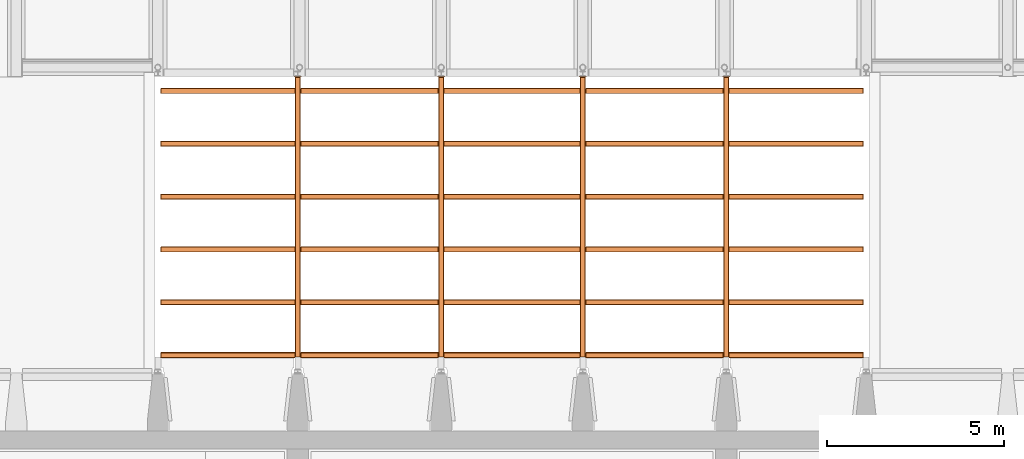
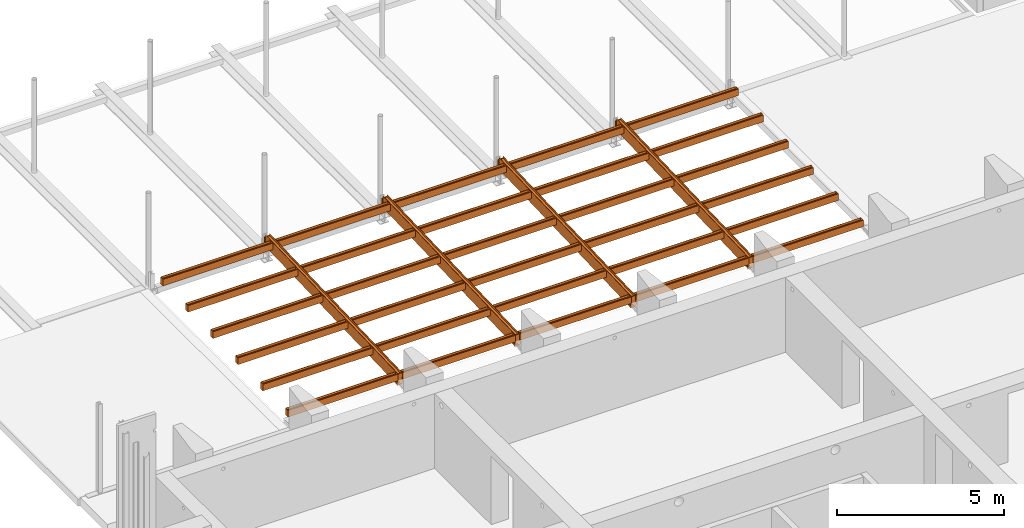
# One storey, part 31 of 31: 34 proxies.
"""IFC2X3 building model written with IfcOpenShell, lengths in millimetres."""

import ifcopenshell
import ifcopenshell.guid

model = None  # the IFC model being written
_history = None  # IfcOwnerHistory: only IFC2X3 demands one
_inside = {}  # id of a spatial element -> (the spatial element, [elements in it])
_under = {}  # id of a project, library or spatial element -> (it, [spatial elements below it])
_declared = {}  # id of a project -> (the project, [libraries it declares])
_typed = {}  # id of a type object -> (the type object, [elements of that type])
_made_of = {}  # id of a material, layer set ... -> (it, [elements and type objects made of it])


def new_model(schema):
    """Start an empty IFC model of exactly this schema.

    Asked for "IFC4X3", IfcOpenShell would pick the latest addendum, in which some entities
    have other attributes; the version numbers below select the first issue.
    IFC2X3 requires an IfcOwnerHistory on every rooted entity: one is made here for all.
    """
    global model, _history
    if schema == "IFC4X3":
        model = ifcopenshell.file(schema_version=(4, 3, 0, 0))
    else:
        model = ifcopenshell.file(schema=schema)
    _inside.clear()
    _under.clear()
    _declared.clear()
    _typed.clear()
    _made_of.clear()
    _history = None
    if model.schema == "IFC2X3":
        org = make("IfcOrganization", Name="unknown")
        user = make(
            "IfcPersonAndOrganization",
            ThePerson=make("IfcPerson", FamilyName="unknown"),
            TheOrganization=org,
        )
        app = make(
            "IfcApplication",
            ApplicationDeveloper=org,
            Version="unknown",
            ApplicationFullName="unknown",
            ApplicationIdentifier="unknown",
        )
        _history = make(
            "IfcOwnerHistory",
            OwningUser=user,
            OwningApplication=app,
            ChangeAction="ADDED",
            CreationDate=0,
        )
    return model


def make(cls, **values):
    """One entity of the class cls with the attributes given. An attribute that is None is left unset."""
    return model.create_entity(
        cls, **{name: value for name, value in values.items() if value is not None}
    )


def entity(cls, *values):
    """Any entity or typed value of the class cls, its attributes in the order of the schema. None: left unset."""
    e = model.create_entity(cls)
    for i, value in enumerate(values):
        if value is not None:
            e[i] = value
    return e


def rooted(cls, **values):
    """An entity with a GlobalId (a new one), such as an element, a storey or a relation."""
    return make(cls, GlobalId=ifcopenshell.guid.new(), OwnerHistory=_history, **values)


def si_unit(unit_type, name, prefix=None):
    """IfcSIUnit, for example si_unit("LENGTHUNIT", "METRE", prefix="MILLI")."""
    return make("IfcSIUnit", UnitType=unit_type, Prefix=prefix, Name=name)


def converted_unit(unit_type, name, factor, base, dimensions=None, offset=None):
    """IfcConversionBasedUnit, such as the inch: factor (a typed value) times the base unit."""
    return make(
        "IfcConversionBasedUnit"
        if offset is None
        else "IfcConversionBasedUnitWithOffset",
        ConversionOffset=offset,
        Dimensions=None
        if dimensions is None
        else entity("IfcDimensionalExponents", *dimensions),
        UnitType=unit_type,
        Name=name,
        ConversionFactor=make(
            "IfcMeasureWithUnit", ValueComponent=factor, UnitComponent=base
        ),
    )


def derived_unit(unit_type, elements):
    """IfcDerivedUnit: a product of units, each with its exponent."""
    return make(
        "IfcDerivedUnit",
        Elements=[
            make("IfcDerivedUnitElement", Unit=unit, Exponent=power)
            for unit, power in elements
        ],
        UnitType=unit_type,
    )


def assignment(units):
    """IfcUnitAssignment: the units of a project."""
    return None if units is None else make("IfcUnitAssignment", Units=units)


def point(xyz):
    """IfcCartesianPoint."""
    return None if xyz is None else make("IfcCartesianPoint", Coordinates=xyz)


def direction(xyz):
    """IfcDirection."""
    return None if xyz is None else make("IfcDirection", DirectionRatios=xyz)


def frame(location, z_axis=None, x_axis=None):
    """IfcAxis2Placement3D, a coordinate frame: its origin and axes. An axis left out is left unset."""
    return make(
        "IfcAxis2Placement3D",
        Location=point(location),
        Axis=direction(z_axis),
        RefDirection=direction(x_axis),
    )


def frame_2d(location, x_axis=None):
    """IfcAxis2Placement2D, a coordinate frame in the plane: its origin and x axis."""
    return make(
        "IfcAxis2Placement2D", Location=point(location), RefDirection=direction(x_axis)
    )


def origin():
    """The frame at (0, 0, 0) with its axes left unset."""
    return frame((0.0, 0.0, 0.0))


def origin_2d_with_axis():
    """The frame at (0, 0) in the plane with the x axis (1, 0) written out."""
    return frame_2d((0.0, 0.0), x_axis=(1.0, 0.0))


def place(relative_to, where):
    """IfcLocalPlacement: puts the frame where relative to a parent placement (None: the world)."""
    return make(
        "IfcLocalPlacement", PlacementRelTo=relative_to, RelativePlacement=where
    )


def context(
    kind, dimensions, precision=None, world=None, true_north=None, identifier=None
):
    """IfcGeometricRepresentationContext, for example the 3D "Model" context."""
    return make(
        "IfcGeometricRepresentationContext",
        ContextIdentifier=identifier,
        ContextType=kind,
        CoordinateSpaceDimension=dimensions,
        Precision=precision,
        WorldCoordinateSystem=world,
        TrueNorth=true_north,
    )


def subcontext(parent, identifier, kind, view, scale=None):
    """IfcGeometricRepresentationSubContext, for example "Body" below "Model"."""
    return make(
        "IfcGeometricRepresentationSubContext",
        ContextIdentifier=identifier,
        ContextType=kind,
        ParentContext=parent,
        TargetScale=scale,
        TargetView=view,
    )


def project(units=None, contexts=None):
    """IfcProject with its units and contexts."""
    return rooted(
        "IfcProject",
        Name="project",
        RepresentationContexts=contexts,
        UnitsInContext=assignment(units),
    )


def spatial(cls, under=None, at=None, **own):
    """A site, building, storey or space (cls), placed at a placement, below another one or the project."""
    s = rooted(cls, ObjectPlacement=at, **own)
    if under is not None:
        _under.setdefault(under.id(), (under, []))[1].append(s)
    return s


def profile(cls, at=None, kind="AREA", **sizes):
    """A parametric profile (cls). Its sizes go by their IFC names, for example OverallWidth=200.0."""
    return make(cls, ProfileType=kind, Position=at, **sizes)


def rectangle(**sizes):
    """IfcRectangleProfileDef."""
    return profile("IfcRectangleProfileDef", **sizes)


def extrude(swept, where, along, depth):
    """IfcExtrudedAreaSolid: the profile swept, set in the frame where, extruded along a direction by depth."""
    return make(
        "IfcExtrudedAreaSolid",
        SweptArea=swept,
        Position=where,
        ExtrudedDirection=direction(along),
        Depth=depth,
    )


def shape(context_of_items, identifier, shape_type, items):
    """IfcShapeRepresentation: the items that make up one representation, for example the "Body"."""
    return make(
        "IfcShapeRepresentation",
        ContextOfItems=context_of_items,
        RepresentationIdentifier=identifier,
        RepresentationType=shape_type,
        Items=items,
    )


def source(mapping_origin, context_of_items, identifier, shape_type, items):
    """IfcRepresentationMap: a shape defined once, which mapped items show again and again."""
    return make(
        "IfcRepresentationMap",
        MappingOrigin=mapping_origin,
        MappedRepresentation=shape(context_of_items, identifier, shape_type, items),
    )


def transform(
    local_origin,
    x_axis=None,
    y_axis=None,
    z_axis=None,
    scale=None,
    scale2=None,
    scale3=None,
    uniform=True,
):
    """IfcCartesianTransformationOperator3D, or its non-uniform kind. x_axis, y_axis, z_axis: its Axis1, 2, 3."""
    if uniform:
        return make(
            "IfcCartesianTransformationOperator3D",
            Axis1=direction(x_axis),
            Axis2=direction(y_axis),
            LocalOrigin=point(local_origin),
            Scale=scale,
            Axis3=direction(z_axis),
        )
    return make(
        "IfcCartesianTransformationOperator3DnonUniform",
        Axis1=direction(x_axis),
        Axis2=direction(y_axis),
        LocalOrigin=point(local_origin),
        Scale=scale,
        Axis3=direction(z_axis),
        Scale2=scale2,
        Scale3=scale3,
    )


def mapped(mapping_source, mapping_target):
    """IfcMappedItem: shows the shape of a source again, moved by a transform."""
    return make(
        "IfcMappedItem", MappingSource=mapping_source, MappingTarget=mapping_target
    )


def material(Name=None, Category=None):
    """IfcMaterial."""
    return make("IfcMaterial", Name=Name, Category=Category)


def material_list(materials):
    """IfcMaterialList."""
    return make("IfcMaterialList", Materials=materials)


def made_of(thing, what):
    """Note that an element or type object is made of a material, layer set ...; save() writes the relation."""
    if what is not None:
        _made_of.setdefault(what.id(), (what, []))[1].append(thing)
    return thing


def type_object(cls, material=None, **own):
    """A type object (cls), such as IfcWallType, which elements share."""
    return made_of(rooted(cls, **own), material)


def type_shapes(of_type, sources):
    """Give a type object the sources (RepresentationMaps) that its elements show as mapped items."""
    of_type.RepresentationMaps = sources


def element(
    cls,
    number,
    at=None,
    inside=None,
    cuts=None,
    type_object=None,
    material=None,
    context=None,
    identifier="Body",
    shape_type=None,
    held_by="IfcProductDefinitionShape",
    body=None,
    shapes=None,
    **own,
):
    """One element of the class cls, such as IfcWall. Its Tag is "e" and its number.

    at: its placement. inside: the storey or other place that contains it. cuts: it is an
    opening in that element (IfcRelVoidsElement). A single representation is given by context,
    identifier, shape_type and body (its items); several are given by shapes. held_by: the class
    of the entity that holds the representations. save() writes the other relations.
    """
    e = rooted(cls, Tag="e%d" % number, ObjectPlacement=at, **own)
    if body is not None:
        shapes = [shape(context, identifier, shape_type, body)]
    if shapes is not None:
        e.Representation = make(held_by, Representations=shapes)
    if inside is not None:
        _inside.setdefault(inside.id(), (inside, []))[1].append(e)
    if cuts is not None:
        rooted(
            "IfcRelVoidsElement", RelatingBuildingElement=cuts, RelatedOpeningElement=e
        )
    if type_object is not None:
        _typed.setdefault(type_object.id(), (type_object, []))[1].append(e)
    return made_of(e, material)


def aggregate(whole, parts):
    """IfcRelAggregates: a whole, such as a stair, and the parts it consists of."""
    return rooted("IfcRelAggregates", RelatingObject=whole, RelatedObjects=parts)


def save(model, path):
    """Write the relations noted so far, then the file.

    IfcRelAggregates (storeys below a building ...), IfcRelContainedInSpatialStructure (elements
    in a storey), IfcRelDefinesByType, IfcRelAssociatesMaterial and IfcRelDeclares: one each for
    every whole, place, type object, material and project.
    """
    for whole, parts in _under.values():
        aggregate(whole, parts)
    for where, things in _inside.values():
        rooted(
            "IfcRelContainedInSpatialStructure",
            RelatedElements=things,
            RelatingStructure=where,
        )
    for kind, things in _typed.values():
        rooted("IfcRelDefinesByType", RelatedObjects=things, RelatingType=kind)
    for what, things in _made_of.values():
        rooted("IfcRelAssociatesMaterial", RelatedObjects=things, RelatingMaterial=what)
    for by, libraries in _declared.values():
        rooted("IfcRelDeclares", RelatingContext=by, RelatedDefinitions=libraries)
    model.write(path)


model = new_model("IFC2X3")

# Units and contexts
model_context = context("Model", 3, precision=0.01, world=origin(), true_north=direction((6.12303176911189e-17, 1.0)))
body_context = subcontext(model_context, "Body", "Model", "MODEL_VIEW")
ifc_project = project(units=[si_unit("LENGTHUNIT", "METRE", prefix="MILLI"), si_unit("AREAUNIT", "SQUARE_METRE"), si_unit("VOLUMEUNIT", "CUBIC_METRE"), converted_unit("PLANEANGLEUNIT", "DEGREE", entity("IfcRatioMeasure", 0.0174532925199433), si_unit("PLANEANGLEUNIT", "RADIAN"), dimensions=[0, 0, 0, 0, 0, 0, 0]), si_unit("MASSUNIT", "GRAM", prefix="KILO"), derived_unit("MASSDENSITYUNIT", [(si_unit("MASSUNIT", "GRAM", prefix="KILO"), 1), (si_unit("LENGTHUNIT", "METRE"), -3)]), si_unit("TIMEUNIT", "SECOND"), si_unit("FREQUENCYUNIT", "HERTZ"), si_unit("THERMODYNAMICTEMPERATUREUNIT", "DEGREE_CELSIUS"), derived_unit("THERMALTRANSMITTANCEUNIT", [(si_unit("MASSUNIT", "GRAM", prefix="KILO"), 1), (si_unit("THERMODYNAMICTEMPERATUREUNIT", "KELVIN"), -1), (si_unit("TIMEUNIT", "SECOND"), -3)]), derived_unit("VOLUMETRICFLOWRATEUNIT", [(si_unit("LENGTHUNIT", "METRE"), 3), (si_unit("TIMEUNIT", "SECOND"), -1)]), si_unit("ELECTRICCURRENTUNIT", "AMPERE"), si_unit("ELECTRICVOLTAGEUNIT", "VOLT"), si_unit("POWERUNIT", "WATT"), si_unit("FORCEUNIT", "NEWTON", prefix="KILO"), si_unit("ILLUMINANCEUNIT", "LUX"), si_unit("LUMINOUSFLUXUNIT", "LUMEN"), si_unit("LUMINOUSINTENSITYUNIT", "CANDELA"), derived_unit("USERDEFINED", [(si_unit("MASSUNIT", "GRAM", prefix="KILO"), -1), (si_unit("LENGTHUNIT", "METRE"), -2), (si_unit("TIMEUNIT", "SECOND"), 3), (si_unit("LUMINOUSFLUXUNIT", "LUMEN"), 1)]), derived_unit("LINEARVELOCITYUNIT", [(si_unit("LENGTHUNIT", "METRE"), 1), (si_unit("TIMEUNIT", "SECOND"), -1)]), si_unit("PRESSUREUNIT", "PASCAL"), derived_unit("USERDEFINED", [(si_unit("LENGTHUNIT", "METRE"), -2), (si_unit("MASSUNIT", "GRAM", prefix="KILO"), 1), (si_unit("TIMEUNIT", "SECOND"), -2)])], contexts=[model_context])

# Site, building, storey
site_placement = place(None, origin())
site = spatial("IfcSite", under=ifc_project, at=site_placement, Name="Default", CompositionType="ELEMENT")
building_placement = place(site_placement, origin())
building = spatial("IfcBuilding", under=site, at=building_placement, Name="niet gebruiken", CompositionType="ELEMENT")
storey_placement = place(building_placement, frame((0.0, 0.0, 12000.0)))
storey = spatial("IfcBuildingStorey", under=building, at=storey_placement, Name="03 derde verdieping", CompositionType="ELEMENT", Elevation=12000.0)

# Proxies
ifc_material_1 = material(Name="NLRS_h2_staal")
ifc_material_2 = material(Name="Default")
ifc_material_list_1 = material_list([ifc_material_1, ifc_material_2])
ifc_material_list_2 = material_list([ifc_material_1, ifc_material_2])
building_element_proxy_type_1 = type_object("IfcBuildingElementProxyType", Name="type1", PredefinedType="NOTDEFINED", material=ifc_material_list_2)
shared_shape_1 = source(origin(), body_context, "Body", "SweptSolid", [
    extrude(rectangle(XDim=210.0, YDim=20.0000000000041, at=origin_2d_with_axis()), frame((0.0, 8239.0017386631, 43.019405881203), z_axis=(0.0, 0.0, 1.0), x_axis=(-1.0, 0.0, 0.0)), (0.0, 0.0, 1.0), 369.999999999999),
    extrude(rectangle(XDim=19.9999999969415, YDim=200.0, at=frame_2d((0.0, -3.37507799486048e-14), x_axis=(0.0, 1.0))), frame((0.0, 329.271319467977, -206.559366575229), z_axis=(0.0, -0.0348994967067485, 0.999390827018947), x_axis=(-1.0, 0.0, 0.0)), (0.0, 0.0, 1.0), 420.000000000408),
    extrude(rectangle(XDim=19.9999999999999, YDim=7892.99999999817, at=frame_2d((2.48689957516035e-14, 9.09494701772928e-13), x_axis=(1.0, 0.0))), frame((-67.0, 4280.56916683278, 11.4717582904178), z_axis=(1.0, 0.0, 0.0), x_axis=(0.0, 0.0348994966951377, -0.999390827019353)), (0.0, 0.0, 1.0), 134.0),
    extrude(rectangle(XDim=20.0, YDim=7893.0, at=frame_2d((1.68753899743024e-14, 9.09494701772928e-13), x_axis=(1.0, 0.0))), frame((-67.0, 4271.84429265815, 261.31946504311), z_axis=(1.0, 0.0, 0.0), x_axis=(0.0, 0.0348994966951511, -0.999390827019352)), (0.0, 0.0, 1.0), 134.0),
    extrude(rectangle(XDim=430.0, YDim=8.0, at=frame_2d((-4.21884749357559e-15, 0.0), x_axis=(0.0, 1.0))), frame((71.0, 332.110830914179, -1.33525207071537), z_axis=(0.0, 0.999390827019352, 0.0348994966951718), x_axis=(-1.0, 0.0, 0.0)), (0.0, 0.0, 1.0), 7892.99999999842),
    extrude(rectangle(XDim=430.0, YDim=8.0, at=frame_2d((4.21884749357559e-15, 1.4210854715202e-14), x_axis=(0.0, 1.0))), frame((-71.0, 332.110830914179, -1.33525207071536), z_axis=(0.0, 0.999390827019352, 0.0348994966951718), x_axis=(-1.0, 0.0, 0.0)), (0.0, 0.0, 1.0), 7892.99999999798),
])
type_shapes(building_element_proxy_type_1, [shared_shape_1])
proxy_1_placement = place(storey_placement, frame((147800.0, 35000.0, 1500.0)))
element("IfcBuildingElementProxy", 1, at=proxy_1_placement, inside=storey, type_object=building_element_proxy_type_1, material=ifc_material_list_1, Name="NLRS_28.11_SF_stalen ligger samengesteld 3e hoofd_gen:type1", ObjectType="type1", context=body_context, shape_type="MappedRepresentation", body=[
    mapped(shared_shape_1, transform((0.0, 0.0, 0.0), scale=1.0)),
])
ifc_material_list_3 = material_list([ifc_material_1, ifc_material_2])
proxy_2_placement = place(storey_placement, frame((143750.0, 35000.0, 1500.0)))
element("IfcBuildingElementProxy", 2, at=proxy_2_placement, inside=storey, type_object=building_element_proxy_type_1, material=ifc_material_list_3, Name="NLRS_28.11_SF_stalen ligger samengesteld 3e hoofd_gen:type1", ObjectType="type1", context=body_context, shape_type="MappedRepresentation", body=[
    mapped(shared_shape_1, transform((0.0, 0.0, 0.0), scale=1.0)),
])
ifc_material_list_4 = material_list([ifc_material_1, ifc_material_2])
proxy_3_placement = place(storey_placement, frame((139750.0, 35000.0, 1500.0)))
element("IfcBuildingElementProxy", 3, at=proxy_3_placement, inside=storey, type_object=building_element_proxy_type_1, material=ifc_material_list_4, Name="NLRS_28.11_SF_stalen ligger samengesteld 3e hoofd_gen:type1", ObjectType="type1", context=body_context, shape_type="MappedRepresentation", body=[
    mapped(shared_shape_1, transform((0.0, 0.0, 0.0), scale=1.0)),
])
ifc_material_list_5 = material_list([ifc_material_1, ifc_material_2])
proxy_4_placement = place(storey_placement, frame((135700.0, 35000.0, 1500.0)))
element("IfcBuildingElementProxy", 4, at=proxy_4_placement, inside=storey, type_object=building_element_proxy_type_1, material=ifc_material_list_5, Name="NLRS_28.11_SF_stalen ligger samengesteld 3e hoofd_gen:type1", ObjectType="type1", context=body_context, shape_type="MappedRepresentation", body=[
    mapped(shared_shape_1, transform((0.0, 0.0, 0.0), scale=1.0)),
])
building_element_proxy_type_2 = type_object("IfcBuildingElementProxyType", Name="type1", PredefinedType="NOTDEFINED", material=ifc_material_1)
shared_shape_2 = source(origin(), body_context, "Body", "SweptSolid", [
    extrude(rectangle(XDim=142.0, YDim=9.99999999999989, at=frame_2d((0.0, 0.0), x_axis=(0.0, 1.0))), frame((4.6575118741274, 3870.0, -247.988523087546), z_axis=(-0.0348994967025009, 0.0, 0.999390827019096), x_axis=(0.0, 1.0, 0.0)), (0.0, 0.0, 1.0), 247.999999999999),
    extrude(rectangle(XDim=150.0, YDim=9.99999999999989, at=frame_2d((0.0, 7.105427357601e-15), x_axis=(0.0, 1.0))), frame((8.6550751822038, 80.0, -247.848925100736), z_axis=(-0.0348994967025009, 0.0, 0.999390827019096), x_axis=(0.0, 1.0, 0.0)), (0.0, 0.0, 1.0), 247.999999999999),
    extrude(rectangle(XDim=7.99999999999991, YDim=134.0, at=frame_2d((1.4210854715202e-14, 3.48610029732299e-14), x_axis=(0.0, 1.0))), frame((5.72351745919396, 85.0, -163.900095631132), z_axis=(0.0, 1.0, 0.0), x_axis=(-0.999390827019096, 0.0, -0.0348994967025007)), (0.0, 0.0, 1.0), 3780.0),
    extrude(rectangle(XDim=7.99999999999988, YDim=134.0, at=frame_2d((1.4210854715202e-14, 3.46389583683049e-14), x_axis=(0.0, 1.0))), frame((2.93155772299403, 85.0, -83.9488294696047), z_axis=(0.0, 1.0, 0.0), x_axis=(-0.999390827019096, 0.0, -0.0348994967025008)), (0.0, 0.0, 1.0), 3780.0),
    extrude(rectangle(XDim=248.0, YDim=7.99999999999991, at=frame_2d((-7.105427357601e-15, 5.06261699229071e-14), x_axis=(1.0, 0.0))), frame((75.2842863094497, 85.0, -121.44659828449), z_axis=(0.0, 1.0, 0.0), x_axis=(0.034899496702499, 0.0, -0.999390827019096)), (0.0, 0.0, 1.0), 3780.0),
    extrude(rectangle(XDim=248.0, YDim=7.99999999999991, at=frame_2d((0.0, 5.10702591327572e-14), x_axis=(1.0, 0.0))), frame((-66.6292111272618, 85.0, -126.402326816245), z_axis=(0.0, 1.0, 0.0), x_axis=(0.0348994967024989, 0.0, -0.999390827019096)), (0.0, 0.0, 1.0), 3780.0),
])
type_shapes(building_element_proxy_type_2, [shared_shape_2])
for number, where, z_axis, x_axis, name in (
    (5, (151750.0, 38356.4507013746, 1819.40807543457), (0.0, 0.0, 1.0), (0.0, 1.0, 0.0), "NLRS_28.11_SF_stalen ligger samengesteld 3e tussen_gen:type1"),
    (6, (135700.0, 38356.4507013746, 1819.40807543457), (0.0, 0.0, 1.0), (0.0, 1.0, 0.0), "NLRS_28.11_SF_stalen ligger samengesteld 3e tussen_gen:type1"),
    (7, (151750.0, 36864.4336345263, 1767.30569136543), (0.0, 0.0, 1.0), (0.0, 1.0, 0.0), "NLRS_28.11_SF_stalen ligger samengesteld 3e tussen_gen:type1"),
    (8, (135700.0, 36864.4336345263, 1767.30569136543), (0.0, 0.0, 1.0), (0.0, 1.0, 0.0), "NLRS_28.11_SF_stalen ligger samengesteld 3e tussen_gen:type1"),
    (9, (151750.0, 35372.4165676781, 1715.20330729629), (0.0, 0.0, 1.0), (0.0, 1.0, 0.0), "NLRS_28.11_SF_stalen ligger samengesteld 3e tussen_gen:type1"),
    (10, (135700.0, 35372.4165676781, 1715.20330729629), (0.0, 0.0, 1.0), (0.0, 1.0, 0.0), "NLRS_28.11_SF_stalen ligger samengesteld 3e tussen_gen:type1"),
    (11, (151750.0, 39848.4677682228, 1871.51045950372), (0.0, 0.0, 1.0), (0.0, 1.0, 0.0), "NLRS_28.11_SF_stalen ligger samengesteld 3e tussen_gen:type1"),
    (12, (135700.0, 39848.4677682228, 1871.51045950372), (0.0, 0.0, 1.0), (0.0, 1.0, 0.0), "NLRS_28.11_SF_stalen ligger samengesteld 3e tussen_gen:type1"),
    (13, (151750.0, 41340.484835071, 1923.61284357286), (0.0, 0.0, 1.0), (0.0, 1.0, 0.0), "NLRS_28.11_SF_stalen ligger samengesteld 3e tussen_gen:type1"),
    (14, (135700.0, 41340.484835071, 1923.61284357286), (0.0, 0.0, 1.0), (0.0, 1.0, 0.0), "NLRS_28.11_SF_stalen ligger samengesteld 3e tussen_gen:type1"),
    (15, (151750.0, 42832.5019019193, 1975.715227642), (0.0, 0.0, 1.0), (0.0, 1.0, 0.0), "NLRS_28.11_SF_stalen ligger samengesteld 3e tussen_gen:type1"),
    (16, (135700.0, 42832.5019019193, 1975.715227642), (0.0, 0.0, 1.0), (0.0, 1.0, 0.0), "NLRS_28.11_SF_stalen ligger samengesteld 3e tussen_gen:type1"),
):
    element("IfcBuildingElementProxy", number, at=place(storey_placement, frame(where, z_axis=z_axis, x_axis=x_axis)), inside=storey, type_object=building_element_proxy_type_2, material=ifc_material_1, Name=name, ObjectType="type1", context=body_context, shape_type="MappedRepresentation", body=[
        mapped(shared_shape_2, transform((0.0, 0.0, 0.0), scale=1.0)),
    ])
building_element_proxy_type_3 = type_object("IfcBuildingElementProxyType", Name="type1", PredefinedType="NOTDEFINED", material=ifc_material_1)
shared_shape_3 = source(origin(), body_context, "Body", "SweptSolid", [
    extrude(rectangle(XDim=142.0, YDim=9.99999999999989, at=frame_2d((0.0, 0.0), x_axis=(0.0, 1.0))), frame((4.6575118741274, 3970.0, -247.988523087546), z_axis=(-0.0348994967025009, 0.0, 0.999390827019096), x_axis=(0.0, 1.0, 0.0)), (0.0, 0.0, 1.0), 247.999999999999),
    extrude(rectangle(XDim=150.0, YDim=9.99999999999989, at=frame_2d((0.0, 7.105427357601e-15), x_axis=(0.0, 1.0))), frame((8.6550751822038, 80.0, -247.848925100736), z_axis=(-0.0348994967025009, 0.0, 0.999390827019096), x_axis=(0.0, 1.0, 0.0)), (0.0, 0.0, 1.0), 247.999999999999),
    extrude(rectangle(XDim=7.99999999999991, YDim=134.0, at=frame_2d((1.4210854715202e-14, 3.48610029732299e-14), x_axis=(0.0, 1.0))), frame((5.72351745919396, 85.0, -163.900095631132), z_axis=(0.0, 1.0, 0.0), x_axis=(-0.999390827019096, 0.0, -0.0348994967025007)), (0.0, 0.0, 1.0), 3880.0),
    extrude(rectangle(XDim=7.99999999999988, YDim=134.0, at=frame_2d((1.4210854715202e-14, 3.46389583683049e-14), x_axis=(0.0, 1.0))), frame((2.93155772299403, 85.0, -83.9488294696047), z_axis=(0.0, 1.0, 0.0), x_axis=(-0.999390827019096, 0.0, -0.0348994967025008)), (0.0, 0.0, 1.0), 3880.0),
    extrude(rectangle(XDim=248.0, YDim=7.99999999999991, at=frame_2d((-7.105427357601e-15, 5.06261699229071e-14), x_axis=(1.0, 0.0))), frame((75.2842863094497, 85.0, -121.44659828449), z_axis=(0.0, 1.0, 0.0), x_axis=(0.034899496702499, 0.0, -0.999390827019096)), (0.0, 0.0, 1.0), 3880.0),
    extrude(rectangle(XDim=248.0, YDim=7.99999999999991, at=frame_2d((0.0, 5.10702591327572e-14), x_axis=(1.0, 0.0))), frame((-66.6292111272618, 85.0, -126.402326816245), z_axis=(0.0, 1.0, 0.0), x_axis=(0.0348994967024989, 0.0, -0.999390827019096)), (0.0, 0.0, 1.0), 3880.0),
])
type_shapes(building_element_proxy_type_3, [shared_shape_3])
for number, where, z_axis, x_axis, name in (
    (17, (147800.0, 38356.4507013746, 1819.40807543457), (0.0, 0.0, 1.0), (0.0, 1.0, 0.0), "NLRS_28.11_SF_stalen ligger samengesteld 3e tussen_gen:type1"),
    (18, (139750.0, 38356.4507013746, 1819.40807543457), (0.0, 0.0, 1.0), (0.0, 1.0, 0.0), "NLRS_28.11_SF_stalen ligger samengesteld 3e tussen_gen:type1"),
    (19, (147800.0, 36864.4336345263, 1767.30569136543), (0.0, 0.0, 1.0), (0.0, 1.0, 0.0), "NLRS_28.11_SF_stalen ligger samengesteld 3e tussen_gen:type1"),
    (20, (139750.0, 36864.4336345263, 1767.30569136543), (0.0, 0.0, 1.0), (0.0, 1.0, 0.0), "NLRS_28.11_SF_stalen ligger samengesteld 3e tussen_gen:type1"),
    (21, (147800.0, 35372.4165676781, 1715.20330729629), (0.0, 0.0, 1.0), (0.0, 1.0, 0.0), "NLRS_28.11_SF_stalen ligger samengesteld 3e tussen_gen:type1"),
    (22, (139750.0, 35372.4165676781, 1715.20330729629), (0.0, 0.0, 1.0), (0.0, 1.0, 0.0), "NLRS_28.11_SF_stalen ligger samengesteld 3e tussen_gen:type1"),
    (23, (147800.0, 39848.4677682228, 1871.51045950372), (0.0, 0.0, 1.0), (0.0, 1.0, 0.0), "NLRS_28.11_SF_stalen ligger samengesteld 3e tussen_gen:type1"),
    (24, (139750.0, 39848.4677682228, 1871.51045950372), (0.0, 0.0, 1.0), (0.0, 1.0, 0.0), "NLRS_28.11_SF_stalen ligger samengesteld 3e tussen_gen:type1"),
    (25, (147800.0, 41340.484835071, 1923.61284357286), (0.0, 0.0, 1.0), (0.0, 1.0, 0.0), "NLRS_28.11_SF_stalen ligger samengesteld 3e tussen_gen:type1"),
    (26, (139750.0, 41340.484835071, 1923.61284357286), (0.0, 0.0, 1.0), (0.0, 1.0, 0.0), "NLRS_28.11_SF_stalen ligger samengesteld 3e tussen_gen:type1"),
    (27, (147800.0, 42832.5019019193, 1975.715227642), (0.0, 0.0, 1.0), (0.0, 1.0, 0.0), "NLRS_28.11_SF_stalen ligger samengesteld 3e tussen_gen:type1"),
    (28, (139750.0, 42832.5019019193, 1975.715227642), (0.0, 0.0, 1.0), (0.0, 1.0, 0.0), "NLRS_28.11_SF_stalen ligger samengesteld 3e tussen_gen:type1"),
):
    element("IfcBuildingElementProxy", number, at=place(storey_placement, frame(where, z_axis=z_axis, x_axis=x_axis)), inside=storey, type_object=building_element_proxy_type_3, material=ifc_material_1, Name=name, ObjectType="type1", context=body_context, shape_type="MappedRepresentation", body=[
        mapped(shared_shape_3, transform((0.0, 0.0, 0.0), scale=1.0)),
    ])
building_element_proxy_type_4 = type_object("IfcBuildingElementProxyType", Name="type1", PredefinedType="NOTDEFINED", material=ifc_material_1)
shared_shape_4 = source(origin(), body_context, "Body", "SweptSolid", [
    extrude(rectangle(XDim=142.0, YDim=9.99999999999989, at=frame_2d((0.0, 0.0), x_axis=(0.0, 1.0))), frame((4.6575118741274, 3920.0, -247.988523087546), z_axis=(-0.0348994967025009, 0.0, 0.999390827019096), x_axis=(0.0, 1.0, 0.0)), (0.0, 0.0, 1.0), 247.999999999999),
    extrude(rectangle(XDim=150.0, YDim=9.99999999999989, at=frame_2d((0.0, 7.105427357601e-15), x_axis=(0.0, 1.0))), frame((8.6550751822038, 80.0, -247.848925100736), z_axis=(-0.0348994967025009, 0.0, 0.999390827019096), x_axis=(0.0, 1.0, 0.0)), (0.0, 0.0, 1.0), 247.999999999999),
    extrude(rectangle(XDim=7.99999999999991, YDim=134.0, at=frame_2d((1.4210854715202e-14, 3.48610029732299e-14), x_axis=(0.0, 1.0))), frame((5.72351745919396, 85.0, -163.900095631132), z_axis=(0.0, 1.0, 0.0), x_axis=(-0.999390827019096, 0.0, -0.0348994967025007)), (0.0, 0.0, 1.0), 3830.0),
    extrude(rectangle(XDim=7.99999999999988, YDim=134.0, at=frame_2d((1.4210854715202e-14, 3.46389583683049e-14), x_axis=(0.0, 1.0))), frame((2.93155772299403, 85.0, -83.9488294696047), z_axis=(0.0, 1.0, 0.0), x_axis=(-0.999390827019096, 0.0, -0.0348994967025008)), (0.0, 0.0, 1.0), 3830.0),
    extrude(rectangle(XDim=248.0, YDim=7.99999999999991, at=frame_2d((-7.105427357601e-15, 5.06261699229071e-14), x_axis=(1.0, 0.0))), frame((75.2842863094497, 85.0, -121.44659828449), z_axis=(0.0, 1.0, 0.0), x_axis=(0.034899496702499, 0.0, -0.999390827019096)), (0.0, 0.0, 1.0), 3830.0),
    extrude(rectangle(XDim=248.0, YDim=7.99999999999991, at=frame_2d((0.0, 5.10702591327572e-14), x_axis=(1.0, 0.0))), frame((-66.6292111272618, 85.0, -126.402326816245), z_axis=(0.0, 1.0, 0.0), x_axis=(0.0348994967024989, 0.0, -0.999390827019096)), (0.0, 0.0, 1.0), 3830.0),
])
type_shapes(building_element_proxy_type_4, [shared_shape_4])
for number, where, z_axis, x_axis, name in (
    (29, (143750.0, 38356.4507013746, 1819.40807543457), (0.0, 0.0, 1.0), (0.0, 1.0, 0.0), "NLRS_28.11_SF_stalen ligger samengesteld 3e tussen_gen:type1"),
    (30, (143750.0, 36864.4336345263, 1767.30569136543), (0.0, 0.0, 1.0), (0.0, 1.0, 0.0), "NLRS_28.11_SF_stalen ligger samengesteld 3e tussen_gen:type1"),
    (31, (143750.0, 35372.4165676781, 1715.20330729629), (0.0, 0.0, 1.0), (0.0, 1.0, 0.0), "NLRS_28.11_SF_stalen ligger samengesteld 3e tussen_gen:type1"),
    (32, (143750.0, 39848.4677682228, 1871.51045950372), (0.0, 0.0, 1.0), (0.0, 1.0, 0.0), "NLRS_28.11_SF_stalen ligger samengesteld 3e tussen_gen:type1"),
    (33, (143750.0, 41340.484835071, 1923.61284357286), (0.0, 0.0, 1.0), (0.0, 1.0, 0.0), "NLRS_28.11_SF_stalen ligger samengesteld 3e tussen_gen:type1"),
    (34, (143750.0, 42832.5019019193, 1975.715227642), (0.0, 0.0, 1.0), (0.0, 1.0, 0.0), "NLRS_28.11_SF_stalen ligger samengesteld 3e tussen_gen:type1"),
):
    element("IfcBuildingElementProxy", number, at=place(storey_placement, frame(where, z_axis=z_axis, x_axis=x_axis)), inside=storey, type_object=building_element_proxy_type_4, material=ifc_material_1, Name=name, ObjectType="type1", context=body_context, shape_type="MappedRepresentation", body=[
        mapped(shared_shape_4, transform((0.0, 0.0, 0.0), scale=1.0)),
    ])

save(model, "model.ifc")
